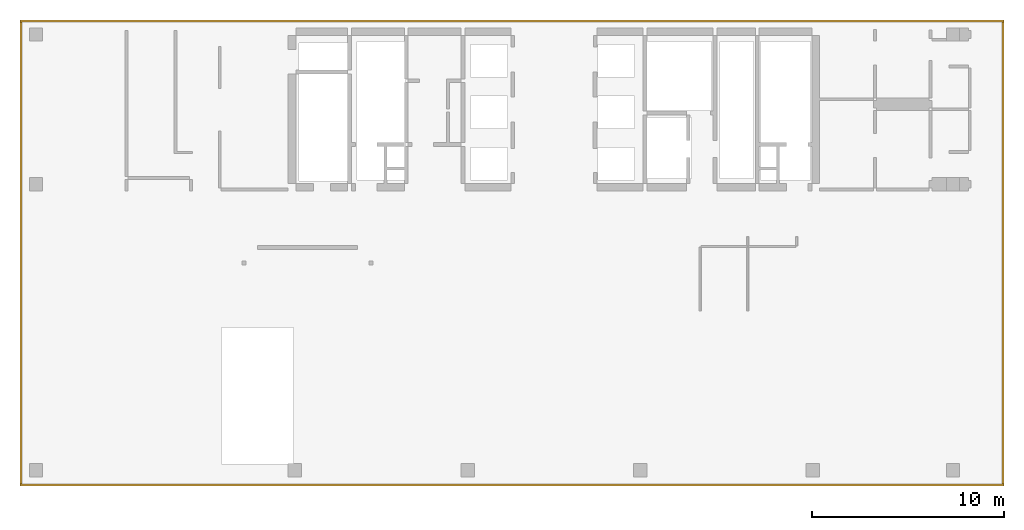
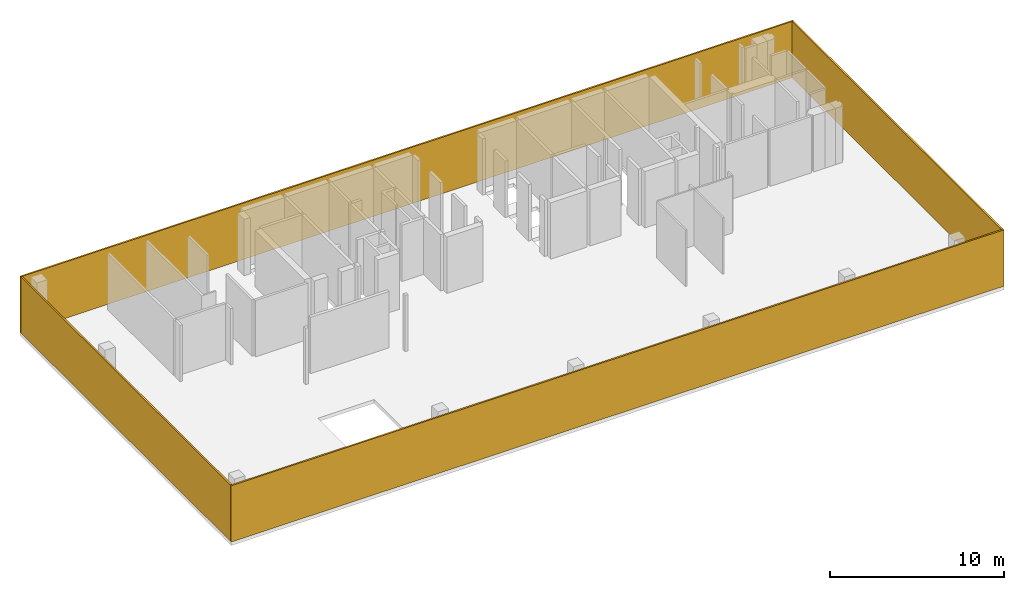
# One storey, part 4 of 4: 4 curtain walls.
"""IFC4 building model written with IfcOpenShell, lengths in millimetres."""

from ifc_helpers import new_model, si_unit, frame, origin, place, context, project, spatial, triangles, element, save


model = new_model("IFC4")

# Units and contexts
model_context = context("Model", 3, precision=0.001, world=origin())
ifc_project = project(units=[si_unit("LENGTHUNIT", "METRE", prefix="MILLI"), si_unit("AREAUNIT", "SQUARE_METRE"), si_unit("VOLUMEUNIT", "CUBIC_METRE")], contexts=[model_context])

# Site, building, storey
site_placement = place(None, origin())
site = spatial("IfcSite", under=ifc_project, at=site_placement, Name="Site", CompositionType="ELEMENT")
building_placement = place(site_placement, origin())
building = spatial("IfcBuilding", under=site, at=building_placement, Name="INNOCEAN", CompositionType="ELEMENT")
storey_placement = place(building_placement, frame((0.0, 0.0, 42800.0)))
storey = spatial("IfcBuildingStorey", under=building, at=storey_placement, Name="F10", CompositionType="ELEMENT", Elevation=42800.0)

# Curtain walls
curtain_wall_1_placement = place(storey_placement, origin())
element("IfcCurtainWall", 1, at=curtain_wall_1_placement, inside=storey, Name="F10_Facade_F10_001", context=model_context, shape_type="Tessellation", body=[
    triangles([(50420.3187250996, 25825.974025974, 0.0), (-846.215139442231, 25825.974025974, 0.0), (-846.215139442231, 25825.974025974, 3950.0), (50420.3187250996, 25825.974025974, 3950.0), (50420.3187250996, 25720.1298701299, 0.0), (50420.3187250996, 25720.1298701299, 3950.0), (-846.215139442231, 25720.1298701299, 0.0), (-846.215139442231, 25720.1298701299, 3950.0)], [[1, 2, 3], [1, 3, 4], [5, 1, 4], [5, 4, 6], [7, 5, 6], [7, 6, 8], [2, 7, 8], [2, 8, 3], [2, 1, 5], [2, 5, 7], [4, 3, 6], [6, 3, 8]], closed=True),
])
curtain_wall_2_placement = place(storey_placement, origin())
element("IfcCurtainWall", 2, at=curtain_wall_2_placement, inside=storey, Name="F10_Facade_F10_002", context=model_context, shape_type="Tessellation", body=[
    triangles([(50420.3187250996, 1658.22510822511, 0.0), (-846.215139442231, 1658.22510822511, 0.0), (-846.215139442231, 1658.22510822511, 3950.0), (50420.3187250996, 1658.22510822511, 3950.0), (50420.3187250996, 1552.38095238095, 0.0), (50420.3187250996, 1552.38095238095, 3950.0), (-846.215139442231, 1552.38095238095, 0.0), (-846.215139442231, 1552.38095238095, 3950.0)], [[1, 2, 3], [1, 3, 4], [5, 1, 4], [5, 4, 6], [7, 5, 6], [7, 6, 8], [2, 7, 8], [2, 8, 3], [2, 1, 5], [2, 5, 7], [4, 3, 6], [6, 3, 8]], closed=True),
])
curtain_wall_3_placement = place(storey_placement, origin())
element("IfcCurtainWall", 3, at=curtain_wall_3_placement, inside=storey, Name="F10_Facade_F10_003", context=model_context, shape_type="Tessellation", body=[
    triangles([(-740.438247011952, 25720.1298701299, 0.0), (-846.215139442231, 25720.1298701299, 0.0), (-846.215139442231, 25720.1298701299, 3950.0), (-740.438247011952, 25720.1298701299, 3950.0), (-740.438247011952, 1658.22510822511, 0.0), (-740.438247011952, 1658.22510822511, 3950.0), (-846.215139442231, 1658.22510822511, 0.0), (-846.215139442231, 1658.22510822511, 3950.0)], [[1, 2, 3], [1, 3, 4], [5, 1, 4], [5, 4, 6], [7, 5, 6], [7, 6, 8], [2, 7, 8], [2, 8, 3], [2, 1, 5], [2, 5, 7], [4, 3, 6], [6, 3, 8]], closed=True),
])
curtain_wall_4_placement = place(storey_placement, origin())
element("IfcCurtainWall", 4, at=curtain_wall_4_placement, inside=storey, Name="F10_Facade_F10_004", context=model_context, shape_type="Tessellation", body=[
    triangles([(50420.3187250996, 25720.1298701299, 0.0), (50314.5418326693, 25720.1298701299, 0.0), (50314.5418326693, 25720.1298701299, 3950.0), (50420.3187250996, 25720.1298701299, 3950.0), (50420.3187250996, 1658.22510822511, 0.0), (50420.3187250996, 1658.22510822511, 3950.0), (50314.5418326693, 1658.22510822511, 0.0), (50314.5418326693, 1658.22510822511, 3950.0)], [[1, 2, 3], [1, 3, 4], [5, 1, 4], [5, 4, 6], [7, 5, 6], [7, 6, 8], [2, 7, 8], [2, 8, 3], [2, 1, 5], [2, 5, 7], [4, 3, 6], [6, 3, 8]], closed=True),
])

save(model, "model.ifc")
